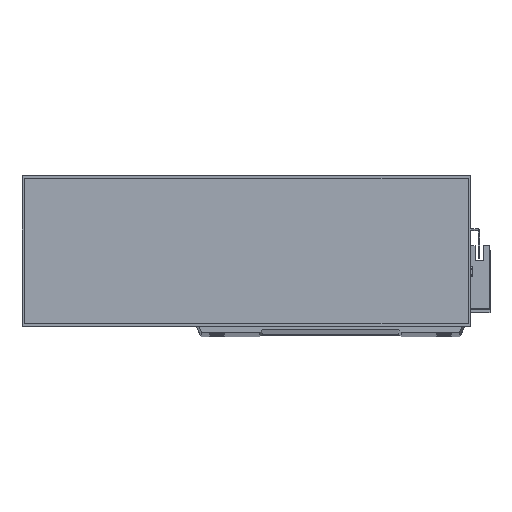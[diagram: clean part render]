
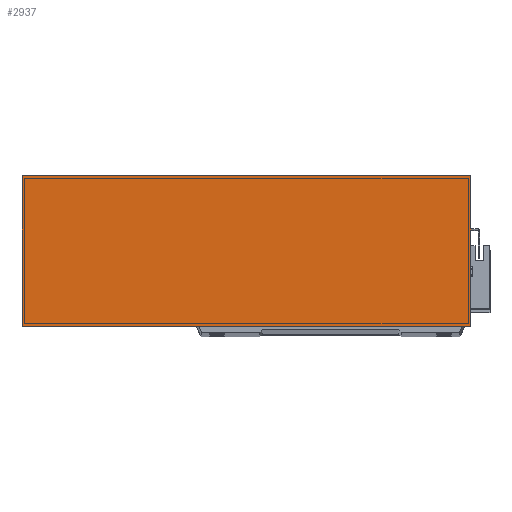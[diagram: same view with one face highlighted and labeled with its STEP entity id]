
A CAD part, top view. The second image highlights one B-rep face of the part: STEP entity #2937.
In plain terms, the highlighted planar face has unit normal (0, 0, 1).
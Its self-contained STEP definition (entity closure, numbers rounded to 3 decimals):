
#303 = CARTESIAN_POINT ( 'NONE',  ( 277., 93., 50. ) ) ;
#596 = CARTESIAN_POINT ( 'NONE',  ( 0., 0., 50. ) ) ;
#1364 = CARTESIAN_POINT ( 'NONE',  ( 0., 93., 50. ) ) ;
#1861 = VERTEX_POINT ( 'NONE', #27390 ) ;
#2937 = ADVANCED_FACE ( 'NONE', ( #30854 ), #24781, .F. ) ;
#2999 = DIRECTION ( 'NONE',  ( 0., -1., 0. ) ) ;
#3310 = ORIENTED_EDGE ( 'NONE', *, *, #11476, .T. ) ;
#3409 = VERTEX_POINT ( 'NONE', #7481 ) ;
#3485 = EDGE_CURVE ( 'NONE', #1861, #5914, #15863, .T. ) ;
#4421 = ORIENTED_EDGE ( 'NONE', *, *, #3485, .T. ) ;
#4648 = VECTOR ( 'NONE', #16752, 1000. ) ;
#4664 = VERTEX_POINT ( 'NONE', #303 ) ;
#4908 = CARTESIAN_POINT ( 'NONE',  ( 277., 0., 50. ) ) ;
#5914 = VERTEX_POINT ( 'NONE', #29853 ) ;
#6390 = AXIS2_PLACEMENT_3D ( 'NONE', #19942, #10494, #27170 ) ;
#6803 = ORIENTED_EDGE ( 'NONE', *, *, #18444, .T. ) ;
#7481 = CARTESIAN_POINT ( 'NONE',  ( 277., 0., 50. ) ) ;
#10494 = DIRECTION ( 'NONE',  ( 0., 0., -1. ) ) ;
#11476 = EDGE_CURVE ( 'NONE', #5914, #3409, #14407, .T. ) ;
#12909 = CARTESIAN_POINT ( 'NONE',  ( 0., 0., 50. ) ) ;
#14407 = LINE ( 'NONE', #12909, #20732 ) ;
#15305 = DIRECTION ( 'NONE',  ( 1., 0., 0. ) ) ;
#15727 = VECTOR ( 'NONE', #25227, 1000. ) ;
#15863 = LINE ( 'NONE', #596, #27828 ) ;
#16752 = DIRECTION ( 'NONE',  ( 0., 1., 0. ) ) ;
#17317 = ORIENTED_EDGE ( 'NONE', *, *, #21693, .T. ) ;
#18444 = EDGE_CURVE ( 'NONE', #3409, #4664, #29239, .T. ) ;
#18532 = EDGE_LOOP ( 'NONE', ( #4421, #3310, #6803, #17317 ) ) ;
#19942 = CARTESIAN_POINT ( 'NONE',  ( 0., 0., 50. ) ) ;
#20732 = VECTOR ( 'NONE', #15305, 1000. ) ;
#21693 = EDGE_CURVE ( 'NONE', #4664, #1861, #22101, .T. ) ;
#22101 = LINE ( 'NONE', #1364, #15727 ) ;
#24781 = PLANE ( 'NONE',  #6390 ) ;
#25227 = DIRECTION ( 'NONE',  ( -1., 0., 0. ) ) ;
#27170 = DIRECTION ( 'NONE',  ( -1., 0., 0. ) ) ;
#27390 = CARTESIAN_POINT ( 'NONE',  ( 0., 93., 50. ) ) ;
#27828 = VECTOR ( 'NONE', #2999, 1000. ) ;
#29239 = LINE ( 'NONE', #4908, #4648 ) ;
#29853 = CARTESIAN_POINT ( 'NONE',  ( 0., 0., 50. ) ) ;
#30854 = FACE_OUTER_BOUND ( 'NONE', #18532, .T. ) ;
